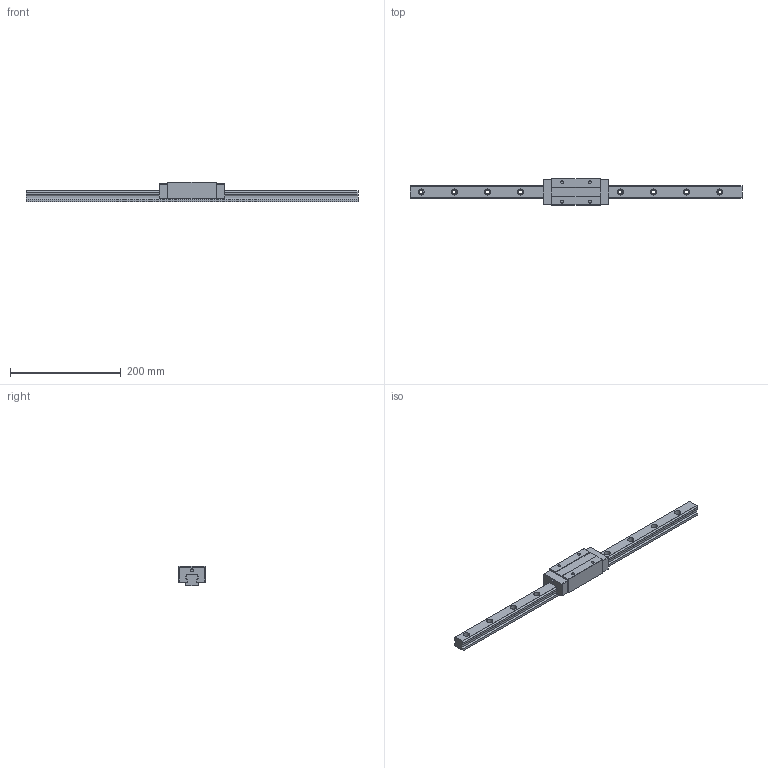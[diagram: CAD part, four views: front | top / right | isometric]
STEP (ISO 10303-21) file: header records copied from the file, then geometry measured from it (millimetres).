
FILE_DESCRIPTION (( 'STEP AP203' ), '1' );
FILE_NAME ('TRC25VE-ZN-§ï.STEP', '2023-08-21T02:48:38', ( '' ), ( '' ), 'SwSTEP 2.0', 'SolidWorks 2022', '' );
FILE_SCHEMA (( 'CONFIG_CONTROL_DESIGN' ));
Length unit declared in the file: millimetre
Products named in the file (1): TRC25VE-ZN-改
Bounding box: 600 x 48 x 36 mm (x, y, z)
Volume: 363606.6 mm3; surface area: 80564.7 mm2
Topology: 1 solids, 1 shells, 173 faces, 468 edges, 310 vertices
Faces by surface type: cylinder 88, plane 85
Entity records: 5613 total; most frequent: DIRECTION 994, CARTESIAN_POINT 952, ORIENTED_EDGE 936, EDGE_CURVE 468, AXIS2_PLACEMENT_3D 352, VERTEX_POINT 310, VECTOR 290, LINE 290
